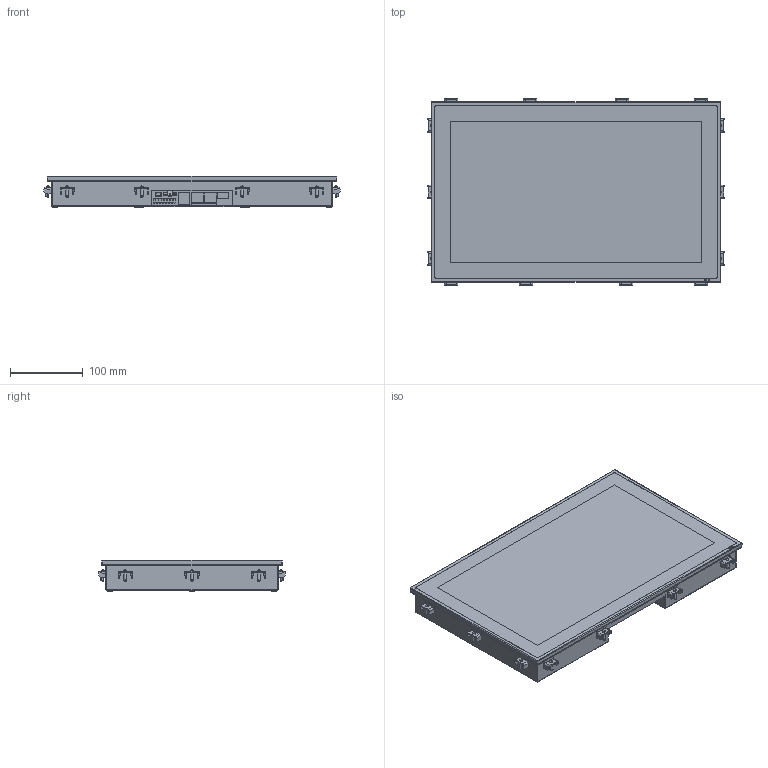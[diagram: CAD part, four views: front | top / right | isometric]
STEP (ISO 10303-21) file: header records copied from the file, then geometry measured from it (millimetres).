
FILE_DESCRIPTION (( 'STEP AP214' ), '1' );
FILE_NAME ('ETT1564 (01-270-1564) Export20241202.STEP', '2024-12-02T17:26:12', ( 'Windows-Benutzer' ), ( '' ), 'SwSTEP 2.0', 'SolidWorks 2020', '' );
FILE_SCHEMA (( 'AUTOMOTIVE_DESIGN' ));
Length unit declared in the file: millimetre
Products named in the file (1): ETT1564 (01-270-1564) Export20241202
Bounding box: 407.15 x 256.65 x 43.7 mm (x, y, z)
Volume: 479952.9 mm3; surface area: 759038.2 mm2
Topology: 65 solids, 66 shells, 1788 faces, 4420 edges, 2760 vertices
Faces by surface type: plane 1213, cylinder 371, cone 82, torus 80, bspline 38, sphere 4
Entity records: 74149 total; most frequent: CARTESIAN_POINT 11282, ORIENTED_EDGE 8776, DIRECTION 8627, EDGE_CURVE 4388, LINE 3197, VECTOR 3197, VERTEX_POINT 2760, AXIS2_PLACEMENT_3D 2715
